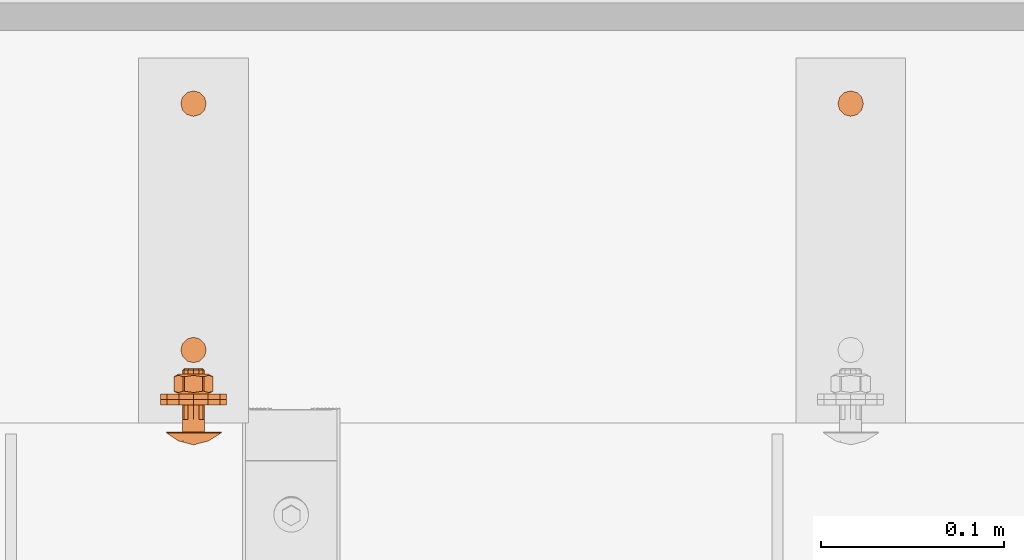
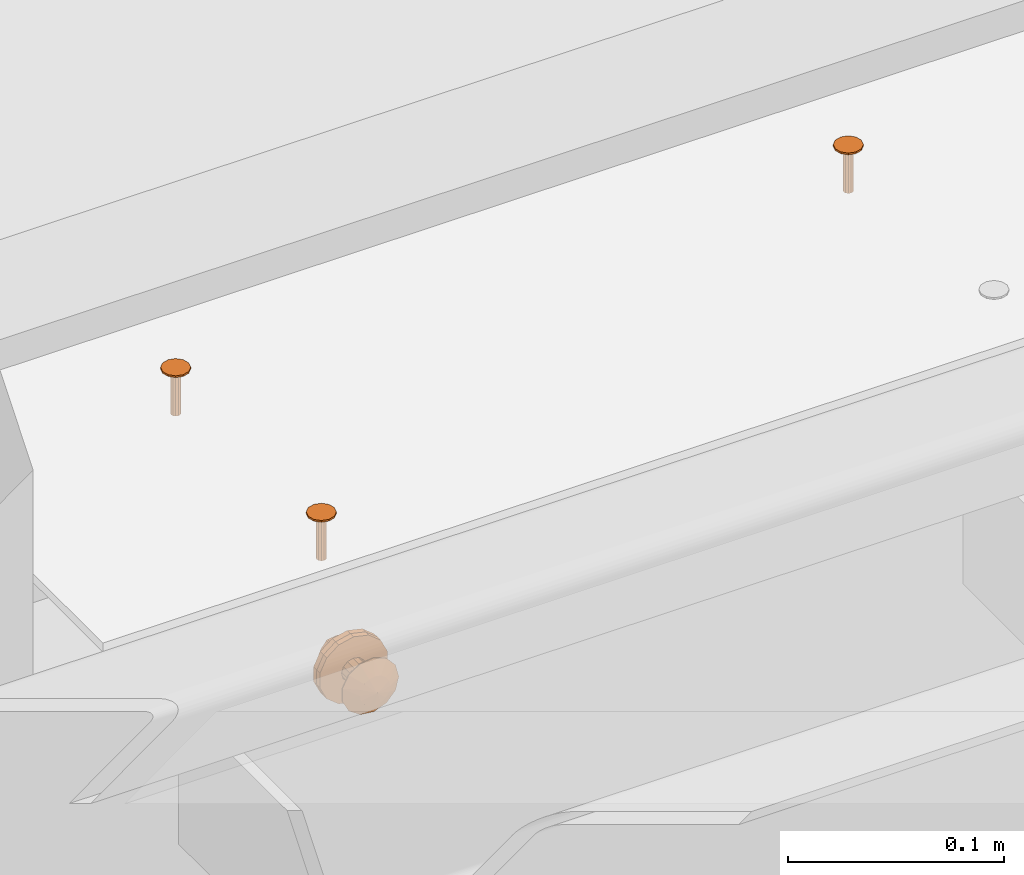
# One storey, part 108 of 116: 7 proxies.
"""IFC2X3 building model written with IfcOpenShell, lengths in millimetres."""

from ifc_helpers import new_model, entity, si_unit, converted_unit, origin_with_axes, place, context, project, spatial, faceted_brep, material, element, save


model = new_model("IFC2X3")

# Units and contexts
model_context = context("Model", 3, precision=1e-09, world=origin_with_axes())
ifc_project = project(units=[si_unit("LENGTHUNIT", "METRE", prefix="MILLI"), si_unit("AREAUNIT", "SQUARE_METRE"), si_unit("VOLUMEUNIT", "CUBIC_METRE"), converted_unit("PLANEANGLEUNIT", "DEGREE", entity("IfcPlaneAngleMeasure", 0.01745329), si_unit("PLANEANGLEUNIT", "RADIAN"), dimensions=[0, 0, 0, 0, 0, 0, 0])], contexts=[model_context])

# Site, building, storey
site_placement = place(None, origin_with_axes())
site = spatial("IfcSite", under=ifc_project, at=site_placement, Name="Site", CompositionType="ELEMENT")
building_placement = place(site_placement, origin_with_axes())
building = spatial("IfcBuilding", under=site, at=building_placement, Name="Struktur 1", CompositionType="ELEMENT")
storey_placement = place(building_placement, origin_with_axes())
storey = spatial("IfcBuildingStorey", under=building, at=storey_placement, Name="Default Storey", CompositionType="ELEMENT", Elevation=0.0)

# Proxies
ifc_material = material(Name="Kein")
proxy_1_placement = place(None, origin_with_axes())
element("IfcBuildingElementProxy", 1, at=proxy_1_placement, inside=storey, material=ifc_material, ObjectType="-", context=model_context, shape_type="Brep", body=[
    faceted_brep([(56202.050634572, 12190.357883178, -5.0), (56202.050634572, 12190.357883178, -4.0), (56198.550634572, 12191.295705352, -4.0), (56198.550634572, 12191.295705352, -5.0), (56205.550634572, 12191.295705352, -5.0), (56205.550634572, 12191.295705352, -4.0), (56208.112812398, 12200.857883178, -4.0), (56205.550634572, 12203.420061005, -4.0), (56202.050634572, 12204.357883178, -4.0), (56198.550634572, 12203.420061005, -4.0), (56195.988456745, 12200.857883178, -4.0), (56195.050634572, 12197.357883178, -4.0), (56195.988456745, 12193.857883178, -4.0), (56208.112812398, 12193.857883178, -4.0), (56209.050634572, 12197.357883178, -4.0), (56195.988456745, 12200.857883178, -5.0), (56198.550634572, 12203.420061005, -5.0), (56202.050634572, 12204.357883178, -5.0), (56205.550634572, 12203.420061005, -5.0), (56208.112812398, 12200.857883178, -5.0), (56209.050634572, 12197.357883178, -5.0), (56208.112812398, 12193.857883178, -5.0), (56195.988456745, 12193.857883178, -5.0), (56195.050634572, 12197.357883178, -5.0)], [[[0, 1, 2, 3]], [[1, 0, 4, 5]], [[6, 7, 8, 9, 10, 11, 12, 2, 1, 5, 13, 14]], [[15, 16, 17, 18, 19, 20, 21, 4, 0, 3, 22, 23]], [[3, 2, 12, 22]], [[5, 4, 21, 13]], [[11, 23, 22, 12]], [[10, 15, 23, 11]], [[13, 21, 20, 14]], [[16, 9, 8, 17]], [[15, 10, 9, 16]], [[17, 8, 7, 18]], [[14, 20, 19, 6]], [[18, 7, 6, 19]]]),
    faceted_brep([(56202.050634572, 12194.857883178, -30.0), (56202.050634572, 12194.857883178, -5.0), (56200.800634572, 12195.192819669, -5.0), (56200.800634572, 12195.192819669, -30.0), (56203.300634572, 12195.192819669, -30.0), (56203.300634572, 12195.192819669, -5.0), (56204.215698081, 12198.607883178, -5.0), (56203.300634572, 12199.522946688, -5.0), (56202.050634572, 12199.857883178, -5.0), (56200.800634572, 12199.522946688, -5.0), (56199.885571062, 12198.607883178, -5.0), (56199.550634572, 12197.357883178, -5.0), (56199.885571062, 12196.107883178, -5.0), (56204.215698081, 12196.107883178, -5.0), (56204.550634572, 12197.357883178, -5.0), (56199.885571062, 12198.607883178, -30.0), (56200.800634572, 12199.522946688, -30.0), (56202.050634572, 12199.857883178, -30.0), (56203.300634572, 12199.522946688, -30.0), (56204.215698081, 12198.607883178, -30.0), (56204.550634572, 12197.357883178, -30.0), (56204.215698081, 12196.107883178, -30.0), (56199.885571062, 12196.107883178, -30.0), (56199.550634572, 12197.357883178, -30.0)], [[[0, 1, 2, 3]], [[1, 0, 4, 5]], [[6, 7, 8, 9, 10, 11, 12, 2, 1, 5, 13, 14]], [[15, 16, 17, 18, 19, 20, 21, 4, 0, 3, 22, 23]], [[3, 2, 12, 22]], [[5, 4, 21, 13]], [[11, 23, 22, 12]], [[10, 15, 23, 11]], [[13, 21, 20, 14]], [[16, 9, 8, 17]], [[15, 10, 9, 16]], [[17, 8, 7, 18]], [[14, 20, 19, 6]], [[18, 7, 6, 19]]]),
])
proxy_2_placement = place(None, origin_with_axes())
element("IfcBuildingElementProxy", 2, at=proxy_2_placement, inside=storey, material=ifc_material, ObjectType="-", context=model_context, shape_type="Brep", body=[
    faceted_brep([(55842.050634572, 12055.358883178, -5.0), (55842.050634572, 12055.358883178, -4.0), (55838.550634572, 12056.296705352, -4.0), (55838.550634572, 12056.296705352, -5.0), (55845.550634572, 12056.296705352, -5.0), (55845.550634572, 12056.296705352, -4.0), (55848.112812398, 12065.858883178, -4.0), (55845.550634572, 12068.421061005, -4.0), (55842.050634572, 12069.358883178, -4.0), (55838.550634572, 12068.421061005, -4.0), (55835.988456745, 12065.858883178, -4.0), (55835.050634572, 12062.358883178, -4.0), (55835.988456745, 12058.858883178, -4.0), (55848.112812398, 12058.858883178, -4.0), (55849.050634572, 12062.358883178, -4.0), (55835.988456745, 12065.858883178, -5.0), (55838.550634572, 12068.421061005, -5.0), (55842.050634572, 12069.358883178, -5.0), (55845.550634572, 12068.421061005, -5.0), (55848.112812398, 12065.858883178, -5.0), (55849.050634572, 12062.358883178, -5.0), (55848.112812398, 12058.858883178, -5.0), (55835.988456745, 12058.858883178, -5.0), (55835.050634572, 12062.358883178, -5.0)], [[[0, 1, 2, 3]], [[1, 0, 4, 5]], [[6, 7, 8, 9, 10, 11, 12, 2, 1, 5, 13, 14]], [[15, 16, 17, 18, 19, 20, 21, 4, 0, 3, 22, 23]], [[3, 2, 12, 22]], [[5, 4, 21, 13]], [[11, 23, 22, 12]], [[10, 15, 23, 11]], [[13, 21, 20, 14]], [[16, 9, 8, 17]], [[15, 10, 9, 16]], [[17, 8, 7, 18]], [[14, 20, 19, 6]], [[18, 7, 6, 19]]]),
    faceted_brep([(55842.050634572, 12059.858883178, -30.0), (55842.050634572, 12059.858883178, -5.0), (55840.800634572, 12060.193819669, -5.0), (55840.800634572, 12060.193819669, -30.0), (55843.300634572, 12060.193819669, -30.0), (55843.300634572, 12060.193819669, -5.0), (55844.215698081, 12063.608883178, -5.0), (55843.300634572, 12064.523946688, -5.0), (55842.050634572, 12064.858883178, -5.0), (55840.800634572, 12064.523946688, -5.0), (55839.885571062, 12063.608883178, -5.0), (55839.550634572, 12062.358883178, -5.0), (55839.885571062, 12061.108883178, -5.0), (55844.215698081, 12061.108883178, -5.0), (55844.550634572, 12062.358883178, -5.0), (55839.885571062, 12063.608883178, -30.0), (55840.800634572, 12064.523946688, -30.0), (55842.050634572, 12064.858883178, -30.0), (55843.300634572, 12064.523946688, -30.0), (55844.215698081, 12063.608883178, -30.0), (55844.550634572, 12062.358883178, -30.0), (55844.215698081, 12061.108883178, -30.0), (55839.885571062, 12061.108883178, -30.0), (55839.550634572, 12062.358883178, -30.0)], [[[0, 1, 2, 3]], [[1, 0, 4, 5]], [[6, 7, 8, 9, 10, 11, 12, 2, 1, 5, 13, 14]], [[15, 16, 17, 18, 19, 20, 21, 4, 0, 3, 22, 23]], [[3, 2, 12, 22]], [[5, 4, 21, 13]], [[11, 23, 22, 12]], [[10, 15, 23, 11]], [[13, 21, 20, 14]], [[16, 9, 8, 17]], [[15, 10, 9, 16]], [[17, 8, 7, 18]], [[14, 20, 19, 6]], [[18, 7, 6, 19]]]),
])
proxy_3_placement = place(None, origin_with_axes())
element("IfcBuildingElementProxy", 3, at=proxy_3_placement, inside=storey, material=ifc_material, ObjectType="-", context=model_context, shape_type="Brep", body=[
    faceted_brep([(55842.050634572, 12190.357883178, -5.0), (55842.050634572, 12190.357883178, -4.0), (55838.550634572, 12191.295705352, -4.0), (55838.550634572, 12191.295705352, -5.0), (55845.550634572, 12191.295705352, -5.0), (55845.550634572, 12191.295705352, -4.0), (55848.112812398, 12200.857883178, -4.0), (55845.550634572, 12203.420061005, -4.0), (55842.050634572, 12204.357883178, -4.0), (55838.550634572, 12203.420061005, -4.0), (55835.988456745, 12200.857883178, -4.0), (55835.050634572, 12197.357883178, -4.0), (55835.988456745, 12193.857883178, -4.0), (55848.112812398, 12193.857883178, -4.0), (55849.050634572, 12197.357883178, -4.0), (55835.988456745, 12200.857883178, -5.0), (55838.550634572, 12203.420061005, -5.0), (55842.050634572, 12204.357883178, -5.0), (55845.550634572, 12203.420061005, -5.0), (55848.112812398, 12200.857883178, -5.0), (55849.050634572, 12197.357883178, -5.0), (55848.112812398, 12193.857883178, -5.0), (55835.988456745, 12193.857883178, -5.0), (55835.050634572, 12197.357883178, -5.0)], [[[0, 1, 2, 3]], [[1, 0, 4, 5]], [[6, 7, 8, 9, 10, 11, 12, 2, 1, 5, 13, 14]], [[15, 16, 17, 18, 19, 20, 21, 4, 0, 3, 22, 23]], [[3, 2, 12, 22]], [[5, 4, 21, 13]], [[11, 23, 22, 12]], [[10, 15, 23, 11]], [[13, 21, 20, 14]], [[16, 9, 8, 17]], [[15, 10, 9, 16]], [[17, 8, 7, 18]], [[14, 20, 19, 6]], [[18, 7, 6, 19]]]),
    faceted_brep([(55842.050634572, 12194.857883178, -30.0), (55842.050634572, 12194.857883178, -5.0), (55840.800634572, 12195.192819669, -5.0), (55840.800634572, 12195.192819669, -30.0), (55843.300634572, 12195.192819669, -30.0), (55843.300634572, 12195.192819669, -5.0), (55844.215698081, 12198.607883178, -5.0), (55843.300634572, 12199.522946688, -5.0), (55842.050634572, 12199.857883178, -5.0), (55840.800634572, 12199.522946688, -5.0), (55839.885571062, 12198.607883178, -5.0), (55839.550634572, 12197.357883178, -5.0), (55839.885571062, 12196.107883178, -5.0), (55844.215698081, 12196.107883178, -5.0), (55844.550634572, 12197.357883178, -5.0), (55839.885571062, 12198.607883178, -30.0), (55840.800634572, 12199.522946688, -30.0), (55842.050634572, 12199.857883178, -30.0), (55843.300634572, 12199.522946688, -30.0), (55844.215698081, 12198.607883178, -30.0), (55844.550634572, 12197.357883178, -30.0), (55844.215698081, 12196.107883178, -30.0), (55839.885571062, 12196.107883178, -30.0), (55839.550634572, 12197.357883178, -30.0)], [[[0, 1, 2, 3]], [[1, 0, 4, 5]], [[6, 7, 8, 9, 10, 11, 12, 2, 1, 5, 13, 14]], [[15, 16, 17, 18, 19, 20, 21, 4, 0, 3, 22, 23]], [[3, 2, 12, 22]], [[5, 4, 21, 13]], [[11, 23, 22, 12]], [[10, 15, 23, 11]], [[13, 21, 20, 14]], [[16, 9, 8, 17]], [[15, 10, 9, 16]], [[17, 8, 7, 18]], [[14, 20, 19, 6]], [[18, 7, 6, 19]]]),
])
proxy_4_placement = place(None, origin_with_axes())
element("IfcBuildingElementProxy", 4, at=proxy_4_placement, inside=storey, material=ifc_material, ObjectType="-", context=model_context, shape_type="Brep", body=[
    faceted_brep([(55856.514516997, 12032.358883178, -63.465438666), (55856.514516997, 12035.358883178, -63.465438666), (55850.077483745, 12035.358883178, -58.332075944), (55850.077483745, 12032.358883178, -58.332075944), (55860.086800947, 12032.358883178, -79.116637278), (55860.086800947, 12032.358883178, -70.883362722), (55842.050634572, 12032.358883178, -56.5), (55834.023785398, 12032.358883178, -58.332075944), (55827.586752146, 12032.358883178, -63.465438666), (55824.014468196, 12032.358883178, -70.883362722), (55824.014468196, 12032.358883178, -79.116637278), (55827.586752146, 12032.358883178, -86.534561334), (55834.023785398, 12032.358883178, -91.667924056), (55842.050634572, 12032.358883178, -93.5), (55850.077483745, 12032.358883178, -91.667924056), (55856.514516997, 12032.358883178, -86.534561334), (55847.679799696, 12032.358883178, -71.75), (55848.550634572, 12032.358883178, -75.0), (55847.679799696, 12032.358883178, -78.25), (55845.300634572, 12032.358883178, -80.629165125), (55842.050634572, 12032.358883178, -81.5), (55838.800634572, 12032.358883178, -80.629165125), (55836.421469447, 12032.358883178, -78.25), (55835.550634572, 12032.358883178, -75.0), (55836.421469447, 12032.358883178, -71.75), (55838.800634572, 12032.358883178, -69.370834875), (55842.050634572, 12032.358883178, -68.5), (55845.300634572, 12032.358883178, -69.370834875), (55834.023785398, 12035.358883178, -58.332075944), (55842.050634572, 12035.358883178, -56.5), (55860.086800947, 12035.358883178, -70.883362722), (55860.086800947, 12035.358883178, -79.116637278), (55856.514516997, 12035.358883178, -86.534561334), (55850.077483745, 12035.358883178, -91.667924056), (55842.050634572, 12035.358883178, -93.5), (55834.023785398, 12035.358883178, -91.667924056), (55827.586752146, 12035.358883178, -86.534561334), (55824.014468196, 12035.358883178, -79.116637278), (55824.014468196, 12035.358883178, -70.883362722), (55827.586752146, 12035.358883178, -63.465438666), (55842.050634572, 12035.358883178, -68.5), (55838.800634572, 12035.358883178, -69.370834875), (55836.421469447, 12035.358883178, -71.75), (55835.550634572, 12035.358883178, -75.0), (55836.421469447, 12035.358883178, -78.25), (55838.800634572, 12035.358883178, -80.629165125), (55842.050634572, 12035.358883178, -81.5), (55845.300634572, 12035.358883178, -80.629165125), (55847.679799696, 12035.358883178, -78.25), (55848.550634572, 12035.358883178, -75.0), (55847.679799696, 12035.358883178, -71.75), (55845.300634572, 12035.358883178, -69.370834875)], [[[0, 1, 2, 3]], [[4, 5, 0, 3, 6, 7, 8, 9, 10, 11, 12, 13, 14, 15], [16, 17, 18, 19, 20, 21, 22, 23, 24, 25, 26, 27]], [[28, 29, 2, 1, 30, 31, 32, 33, 34, 35, 36, 37, 38, 39], [40, 41, 42, 43, 44, 45, 46, 47, 48, 49, 50, 51]], [[1, 0, 5, 30]], [[27, 51, 50, 16]], [[51, 27, 26, 40]], [[3, 2, 29, 6]], [[30, 5, 4, 31]], [[16, 50, 49, 17]], [[40, 26, 25, 41]], [[6, 29, 28, 7]], [[31, 4, 15, 32]], [[17, 49, 48, 18]], [[41, 25, 24, 42]], [[7, 28, 39, 8]], [[32, 15, 14, 33]], [[18, 48, 47, 19]], [[42, 24, 23, 43]], [[8, 39, 38, 9]], [[33, 14, 13, 34]], [[19, 47, 46, 20]], [[22, 44, 43, 23]], [[9, 38, 37, 10]], [[45, 21, 20, 46]], [[44, 22, 21, 45]], [[34, 13, 12, 35]], [[10, 37, 36, 11]], [[35, 12, 11, 36]]]),
])
proxy_5_placement = place(None, origin_with_axes())
element("IfcBuildingElementProxy", 5, at=proxy_5_placement, inside=storey, material=ifc_material, ObjectType="-", context=model_context, shape_type="Brep", body=[
    faceted_brep([(55847.538668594, 12039.773542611, -65.756103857), (55847.538668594, 12047.744223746, -65.756103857), (55847.31206645, 12047.744223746, -65.625275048), (55847.31206645, 12039.773542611, -65.625275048), (55847.762019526, 12039.773542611, -65.892408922), (55846.200634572, 12038.358883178, -67.811989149), (55846.200634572, 12049.158883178, -67.811989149), (55847.762019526, 12047.744223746, -65.892408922), (55847.082347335, 12047.744223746, -65.5), (55847.082347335, 12039.773542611, -65.5), (55852.793732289, 12047.744223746, -74.607591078), (55852.793732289, 12039.773542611, -74.607591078), (55852.800100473, 12039.773542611, -74.869171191), (55852.800100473, 12047.744223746, -74.869171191), (55850.277875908, 12039.051703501, -70.25), (55850.277875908, 12048.466062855, -70.25), (55852.800100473, 12039.773542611, -75.130828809), (55852.800100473, 12047.744223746, -75.130828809), (55850.350634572, 12049.158883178, -75.0), (55842.050634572, 12048.466062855, -65.5), (55837.018921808, 12047.744223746, -65.5), (55837.018921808, 12039.773542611, -65.5), (55842.050634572, 12039.051703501, -65.5), (55852.793732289, 12039.773542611, -75.392408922), (55852.793732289, 12047.744223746, -75.392408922), (55850.350634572, 12038.358883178, -75.0), (55849.238645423, 12038.358883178, -70.85), (55842.050634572, 12038.358883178, -66.7), (55837.900634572, 12038.358883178, -67.811989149), (55834.86262372, 12038.358883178, -70.85), (55833.750634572, 12038.358883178, -75.0), (55834.86262372, 12038.358883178, -79.15), (55837.900634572, 12038.358883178, -82.188010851), (55842.050634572, 12038.358883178, -83.3), (55846.200634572, 12038.358883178, -82.188010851), (55849.238645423, 12038.358883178, -79.15), (55839.050634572, 12038.358883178, -69.803847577), (55842.050634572, 12038.358883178, -69.0), (55845.050634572, 12038.358883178, -69.803847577), (55847.246786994, 12038.358883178, -72.0), (55848.050634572, 12038.358883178, -75.0), (55847.246786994, 12038.358883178, -78.0), (55845.050634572, 12038.358883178, -80.196152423), (55842.050634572, 12038.358883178, -81.0), (55839.050634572, 12038.358883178, -80.196152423), (55836.854482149, 12038.358883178, -78.0), (55836.050634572, 12038.358883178, -75.0), (55836.854482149, 12038.358883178, -72.0), (55845.050634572, 12049.158883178, -69.803847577), (55847.246786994, 12049.158883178, -72.0), (55849.238645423, 12049.158883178, -70.85), (55849.238645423, 12049.158883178, -79.15), (55846.200634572, 12049.158883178, -82.188010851), (55842.050634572, 12049.158883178, -83.3), (55837.900634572, 12049.158883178, -82.188010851), (55834.86262372, 12049.158883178, -79.15), (55833.750634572, 12049.158883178, -75.0), (55834.86262372, 12049.158883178, -70.85), (55837.900634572, 12049.158883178, -67.811989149), (55842.050634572, 12049.158883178, -66.7), (55848.050634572, 12049.158883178, -75.0), (55842.050634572, 12049.158883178, -69.0), (55839.050634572, 12049.158883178, -69.803847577), (55836.854482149, 12049.158883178, -72.0), (55836.050634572, 12049.158883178, -75.0), (55836.854482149, 12049.158883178, -78.0), (55839.050634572, 12049.158883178, -80.196152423), (55842.050634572, 12049.158883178, -81.0), (55845.050634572, 12049.158883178, -80.196152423), (55847.246786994, 12049.158883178, -78.0), (55836.789202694, 12047.744223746, -65.625275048), (55836.789202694, 12039.773542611, -65.625275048), (55850.277875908, 12039.051703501, -79.75), (55847.762019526, 12039.773542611, -84.107591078), (55847.762019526, 12047.744223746, -84.107591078), (55850.277875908, 12048.466062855, -79.75), (55836.562600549, 12047.744223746, -65.756103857), (55836.562600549, 12039.773542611, -65.756103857), (55836.339249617, 12047.744223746, -65.892408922), (55836.339249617, 12039.773542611, -65.892408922), (55833.823393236, 12048.466062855, -70.25), (55831.307536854, 12047.744223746, -74.607591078), (55831.307536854, 12039.773542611, -74.607591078), (55833.823393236, 12039.051703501, -70.25), (55847.538668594, 12039.773542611, -84.243896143), (55847.538668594, 12047.744223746, -84.243896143), (55831.301168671, 12047.744223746, -74.869171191), (55831.301168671, 12039.773542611, -74.869171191), (55847.31206645, 12039.773542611, -84.374724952), (55847.31206645, 12047.744223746, -84.374724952), (55831.301168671, 12047.744223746, -75.130828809), (55831.301168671, 12039.773542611, -75.130828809), (55847.082347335, 12039.773542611, -84.5), (55847.082347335, 12047.744223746, -84.5), (55831.307536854, 12047.744223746, -75.392408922), (55831.307536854, 12039.773542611, -75.392408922), (55842.050634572, 12039.051703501, -84.5), (55837.018921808, 12039.773542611, -84.5), (55837.018921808, 12047.744223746, -84.5), (55842.050634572, 12048.466062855, -84.5), (55833.823393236, 12048.466062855, -79.75), (55836.339249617, 12047.744223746, -84.107591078), (55836.339249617, 12039.773542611, -84.107591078), (55833.823393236, 12039.051703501, -79.75), (55836.789202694, 12039.773542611, -84.374724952), (55836.789202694, 12047.744223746, -84.374724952), (55836.562600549, 12039.773542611, -84.243896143), (55836.562600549, 12047.744223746, -84.243896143)], [[[0, 1, 2, 3]], [[4, 0, 5]], [[1, 6, 2]], [[1, 0, 4, 7]], [[8, 9, 3, 2]], [[3, 5, 0]], [[8, 2, 6]], [[10, 11, 12, 13]], [[14, 11, 10, 15, 7, 4]], [[14, 4, 5]], [[1, 7, 6]], [[13, 12, 16, 17]], [[10, 13, 18]], [[8, 19, 20, 21, 22, 9]], [[3, 9, 5]], [[19, 8, 6]], [[23, 24, 17, 16]], [[12, 25, 16]], [[14, 5, 26]], [[5, 27, 28, 29, 30, 31, 32, 33, 34, 35, 25, 26], [36, 37, 38, 39, 40, 41, 42, 43, 44, 45, 46, 47]], [[38, 48, 49, 39]], [[7, 50, 6]], [[6, 50, 18, 51, 52, 53, 54, 55, 56, 57, 58, 59], [60, 49, 48, 61, 62, 63, 64, 65, 66, 67, 68, 69]], [[17, 18, 13]], [[7, 15, 50]], [[15, 10, 18]], [[21, 20, 70, 71]], [[9, 27, 5]], [[19, 6, 59]], [[48, 38, 37, 61]], [[72, 73, 74, 75, 24, 23]], [[23, 16, 25]], [[12, 11, 25]], [[11, 14, 26]], [[17, 24, 18]], [[15, 18, 50]], [[21, 71, 28]], [[71, 70, 76, 77]], [[9, 22, 27]], [[22, 21, 28]], [[70, 20, 58]], [[20, 19, 59]], [[70, 58, 76]], [[78, 79, 77, 76]], [[24, 75, 51]], [[72, 23, 25]], [[11, 26, 25]], [[39, 49, 60, 40]], [[24, 51, 18]], [[77, 28, 71]], [[22, 28, 27]], [[61, 37, 36, 62]], [[20, 59, 58]], [[78, 76, 58]], [[78, 80, 81, 82, 83, 79]], [[75, 52, 51]], [[72, 25, 35]], [[77, 79, 28]], [[80, 78, 58]], [[75, 74, 52]], [[74, 73, 84, 85]], [[73, 72, 35]], [[40, 60, 69, 41]], [[79, 83, 29]], [[83, 82, 30]], [[82, 81, 86, 87]], [[79, 29, 28]], [[62, 36, 47, 63]], [[80, 58, 57]], [[74, 85, 52]], [[85, 84, 88, 89]], [[73, 35, 34]], [[84, 73, 34]], [[83, 30, 29]], [[82, 87, 30]], [[87, 86, 90, 91]], [[81, 80, 57]], [[81, 56, 86]], [[89, 52, 85]], [[89, 88, 92, 93]], [[68, 42, 41, 69]], [[84, 34, 88]], [[91, 30, 87]], [[91, 90, 94, 95]], [[63, 47, 46, 64]], [[81, 57, 56]], [[90, 86, 56]], [[89, 93, 52]], [[42, 68, 67, 43]], [[66, 44, 43, 67]], [[92, 88, 34]], [[91, 95, 30]], [[45, 65, 64, 46]], [[94, 90, 56]], [[93, 53, 52]], [[96, 97, 98, 99, 93, 92]], [[44, 66, 65, 45]], [[96, 92, 34]], [[95, 31, 30]], [[94, 100, 101, 102, 103, 95]], [[94, 56, 100]], [[93, 99, 53]], [[96, 34, 33]], [[95, 103, 31]], [[100, 56, 55]], [[99, 54, 53]], [[97, 96, 33]], [[103, 32, 31]], [[101, 100, 55]], [[99, 98, 54]], [[97, 33, 32]], [[102, 32, 103]], [[101, 55, 54]], [[98, 97, 104, 105]], [[98, 105, 54]], [[97, 32, 104]], [[102, 106, 32]], [[102, 101, 107, 106]], [[107, 101, 54]], [[107, 54, 105]], [[106, 104, 32]], [[105, 104, 106, 107]]]),
])
proxy_6_placement = place(None, origin_with_axes())
element("IfcBuildingElementProxy", 6, at=proxy_6_placement, inside=storey, material=ifc_material, ObjectType="-", context=model_context, shape_type="Brep", body=[
    faceted_brep([(55846.380761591, 12052.358883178, -72.5), (55847.246786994, 12051.358883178, -72.0), (55848.050634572, 12051.358883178, -75.0), (55847.050634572, 12052.358883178, -75.0), (55844.550634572, 12052.358883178, -70.669872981), (55845.050634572, 12051.358883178, -69.803847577), (55837.720507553, 12052.358883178, -72.5), (55839.550634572, 12052.358883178, -70.669872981), (55842.050634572, 12052.358883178, -70.0), (55846.380761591, 12052.358883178, -77.5), (55844.550634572, 12052.358883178, -79.330127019), (55842.050634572, 12052.358883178, -80.0), (55839.550634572, 12052.358883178, -79.330127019), (55837.720507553, 12052.358883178, -77.5), (55837.050634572, 12052.358883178, -75.0), (55855.620248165, 12017.011383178, -67.878117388), (55850.756226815, 12017.011383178, -62.387772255), (55847.83032902, 12012.523540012, -69.220305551), (55849.602169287, 12012.523540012, -71.872051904), (55842.050634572, 12051.358883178, -69.0), (55845.050634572, 12024.308883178, -69.803847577), (55847.246786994, 12024.308883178, -72.0), (55857.375634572, 12017.011383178, -75.0), (55855.620248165, 12017.358883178, -67.878117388), (55850.756226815, 12017.358883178, -62.387772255), (55847.246786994, 12051.358883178, -78.0), (55845.050634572, 12051.358883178, -80.196152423), (55848.050634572, 12024.308883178, -75.0), (55850.224356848, 12012.523540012, -75.0), (55845.178582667, 12012.523540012, -67.448465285), (55842.050634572, 12010.408883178, -75.0), (55843.897859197, 12017.011383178, -59.786736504), (55839.050634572, 12051.358883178, -69.803847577), (55842.050634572, 12024.308883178, -69.0), (55843.897859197, 12017.358883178, -59.786736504), (55836.854482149, 12051.358883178, -72.0), (55836.050634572, 12051.358883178, -75.0), (55857.375634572, 12017.358883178, -75.0), (55836.854482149, 12051.358883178, -78.0), (55839.050634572, 12051.358883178, -80.196152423), (55842.050634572, 12051.358883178, -81.0), (55848.050634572, 12024.308883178, -69.0), (55849.602169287, 12012.523540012, -78.127948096), (55842.050634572, 12012.523540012, -66.826277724), (55836.616314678, 12017.011383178, -60.670876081), (55839.050634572, 12024.308883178, -69.803847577), (55830.579707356, 12017.358883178, -64.837645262), (55836.616314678, 12017.358883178, -60.670876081), (55855.620248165, 12017.358883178, -82.121882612), (55850.756226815, 12017.358883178, -87.612227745), (55843.897859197, 12017.358883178, -90.213263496), (55836.616314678, 12017.358883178, -89.329123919), (55830.579707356, 12017.358883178, -85.162354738), (55827.17095122, 12017.358883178, -78.667512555), (55827.17095122, 12017.358883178, -71.332487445), (55836.050634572, 12017.358883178, -69.0), (55836.050634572, 12017.358883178, -81.0), (55848.050634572, 12017.358883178, -81.0), (55848.050634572, 12017.358883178, -69.0), (55855.620248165, 12017.011383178, -82.121882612), (55847.246786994, 12024.308883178, -78.0), (55845.050634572, 12024.308883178, -80.196152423), (55847.83032902, 12012.523540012, -80.779694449), (55838.922686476, 12012.523540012, -67.448465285), (55836.854482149, 12024.308883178, -72.0), (55836.050634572, 12024.308883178, -69.0), (55836.050634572, 12024.308883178, -75.0), (55836.854482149, 12024.308883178, -78.0), (55839.050634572, 12024.308883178, -80.196152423), (55842.050634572, 12024.308883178, -81.0), (55848.050634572, 12024.308883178, -81.0), (55850.756226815, 12017.011383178, -87.612227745), (55836.270940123, 12012.523540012, -69.220305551), (55830.579707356, 12017.011383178, -64.837645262), (55836.050634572, 12024.308883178, -81.0), (55845.178582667, 12012.523540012, -82.551534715), (55834.499099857, 12012.523540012, -71.872051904), (55843.897859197, 12017.011383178, -90.213263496), (55842.050634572, 12012.523540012, -83.173722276), (55827.17095122, 12017.011383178, -71.332487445), (55838.922686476, 12012.523540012, -82.551534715), (55833.876912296, 12012.523540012, -75.0), (55836.616314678, 12017.011383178, -89.329123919), (55836.270940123, 12012.523540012, -80.779694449), (55827.17095122, 12017.011383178, -78.667512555), (55834.499099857, 12012.523540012, -78.127948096), (55830.579707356, 12017.011383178, -85.162354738)], [[[0, 1, 2, 3]], [[1, 0, 4, 5]], [[6, 7, 8, 4, 0, 3, 9, 10, 11, 12, 13, 14]], [[15, 16, 17]], [[15, 17, 18]], [[8, 19, 5, 4]], [[5, 20, 21, 1]], [[18, 22, 15]], [[16, 15, 23, 24]], [[9, 25, 26, 10]], [[3, 2, 25, 9]], [[1, 21, 27, 2]], [[18, 28, 22]], [[16, 29, 17]], [[30, 18, 17]], [[16, 31, 29]], [[7, 32, 19, 8]], [[20, 5, 19, 33]], [[24, 34, 31, 16]], [[6, 35, 32, 7]], [[14, 36, 35, 6]], [[15, 22, 37, 23]], [[13, 38, 36, 14]], [[12, 39, 38, 13]], [[11, 40, 39, 12]], [[10, 26, 40, 11]], [[33, 41, 27, 21, 20]], [[28, 42, 22]], [[30, 28, 18]], [[31, 43, 29]], [[30, 17, 29]], [[31, 44, 43]], [[32, 45, 33, 19]], [[46, 47, 34, 24, 23, 37, 48, 49, 50, 51, 52, 53, 54], [55, 56, 57, 58]], [[59, 22, 42]], [[25, 60, 61, 26]], [[2, 27, 60, 25]], [[59, 42, 62]], [[28, 30, 42]], [[30, 29, 43]], [[44, 63, 43]], [[44, 31, 34, 47]], [[45, 32, 35, 64]], [[41, 33, 65, 55, 58]], [[36, 66, 64, 35]], [[38, 67, 66, 36]], [[22, 59, 48, 37]], [[67, 38, 39, 68]], [[40, 69, 68, 39]], [[26, 61, 69, 40]], [[58, 57, 70, 27, 41]], [[71, 59, 62]], [[30, 62, 42]], [[30, 43, 63]], [[44, 72, 63]], [[73, 72, 44]], [[47, 46, 73, 44]], [[66, 65, 33, 45, 64]], [[69, 74, 66, 67, 68]], [[27, 70, 69, 61, 60]], [[59, 71, 49, 48]], [[71, 62, 75]], [[30, 75, 62]], [[72, 30, 63]], [[73, 76, 72]], [[77, 71, 75]], [[30, 78, 75]], [[46, 54, 79, 73]], [[76, 30, 72]], [[79, 76, 73]], [[65, 66, 74, 56, 55]], [[74, 69, 70, 57, 56]], [[71, 77, 50, 49]], [[77, 75, 78]], [[30, 80, 78]], [[81, 30, 76]], [[79, 81, 76]], [[82, 77, 78]], [[80, 30, 83]], [[82, 78, 80]], [[54, 53, 84, 79]], [[85, 30, 81]], [[84, 81, 79]], [[83, 30, 85]], [[77, 82, 51, 50]], [[82, 80, 83]], [[84, 85, 81]], [[86, 83, 85]], [[82, 83, 86]], [[53, 52, 86, 84]], [[86, 85, 84]], [[82, 86, 52, 51]]]),
])
proxy_7_placement = place(None, origin_with_axes())
element("IfcBuildingElementProxy", 7, at=proxy_7_placement, inside=storey, material=ifc_material, ObjectType="-", context=model_context, shape_type="Brep", body=[
    faceted_brep([(55856.514516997, 12035.358883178, -63.465438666), (55856.514516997, 12038.358883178, -63.465438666), (55850.077483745, 12038.358883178, -58.332075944), (55850.077483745, 12035.358883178, -58.332075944), (55860.086800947, 12035.358883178, -79.116637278), (55860.086800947, 12035.358883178, -70.883362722), (55842.050634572, 12035.358883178, -56.5), (55834.023785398, 12035.358883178, -58.332075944), (55827.586752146, 12035.358883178, -63.465438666), (55824.014468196, 12035.358883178, -70.883362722), (55824.014468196, 12035.358883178, -79.116637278), (55827.586752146, 12035.358883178, -86.534561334), (55834.023785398, 12035.358883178, -91.667924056), (55842.050634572, 12035.358883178, -93.5), (55850.077483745, 12035.358883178, -91.667924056), (55856.514516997, 12035.358883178, -86.534561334), (55847.679799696, 12035.358883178, -71.75), (55848.550634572, 12035.358883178, -75.0), (55847.679799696, 12035.358883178, -78.25), (55845.300634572, 12035.358883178, -80.629165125), (55842.050634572, 12035.358883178, -81.5), (55838.800634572, 12035.358883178, -80.629165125), (55836.421469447, 12035.358883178, -78.25), (55835.550634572, 12035.358883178, -75.0), (55836.421469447, 12035.358883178, -71.75), (55838.800634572, 12035.358883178, -69.370834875), (55842.050634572, 12035.358883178, -68.5), (55845.300634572, 12035.358883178, -69.370834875), (55834.023785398, 12038.358883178, -58.332075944), (55842.050634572, 12038.358883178, -56.5), (55860.086800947, 12038.358883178, -70.883362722), (55860.086800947, 12038.358883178, -79.116637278), (55856.514516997, 12038.358883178, -86.534561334), (55850.077483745, 12038.358883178, -91.667924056), (55842.050634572, 12038.358883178, -93.5), (55834.023785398, 12038.358883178, -91.667924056), (55827.586752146, 12038.358883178, -86.534561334), (55824.014468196, 12038.358883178, -79.116637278), (55824.014468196, 12038.358883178, -70.883362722), (55827.586752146, 12038.358883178, -63.465438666), (55842.050634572, 12038.358883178, -68.5), (55838.800634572, 12038.358883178, -69.370834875), (55836.421469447, 12038.358883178, -71.75), (55835.550634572, 12038.358883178, -75.0), (55836.421469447, 12038.358883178, -78.25), (55838.800634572, 12038.358883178, -80.629165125), (55842.050634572, 12038.358883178, -81.5), (55845.300634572, 12038.358883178, -80.629165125), (55847.679799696, 12038.358883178, -78.25), (55848.550634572, 12038.358883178, -75.0), (55847.679799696, 12038.358883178, -71.75), (55845.300634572, 12038.358883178, -69.370834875)], [[[0, 1, 2, 3]], [[4, 5, 0, 3, 6, 7, 8, 9, 10, 11, 12, 13, 14, 15], [16, 17, 18, 19, 20, 21, 22, 23, 24, 25, 26, 27]], [[28, 29, 2, 1, 30, 31, 32, 33, 34, 35, 36, 37, 38, 39], [40, 41, 42, 43, 44, 45, 46, 47, 48, 49, 50, 51]], [[1, 0, 5, 30]], [[27, 51, 50, 16]], [[51, 27, 26, 40]], [[3, 2, 29, 6]], [[30, 5, 4, 31]], [[16, 50, 49, 17]], [[40, 26, 25, 41]], [[6, 29, 28, 7]], [[31, 4, 15, 32]], [[17, 49, 48, 18]], [[41, 25, 24, 42]], [[7, 28, 39, 8]], [[32, 15, 14, 33]], [[18, 48, 47, 19]], [[42, 24, 23, 43]], [[8, 39, 38, 9]], [[33, 14, 13, 34]], [[19, 47, 46, 20]], [[22, 44, 43, 23]], [[9, 38, 37, 10]], [[45, 21, 20, 46]], [[44, 22, 21, 45]], [[34, 13, 12, 35]], [[10, 37, 36, 11]], [[35, 12, 11, 36]]]),
])

save(model, "model.ifc")
